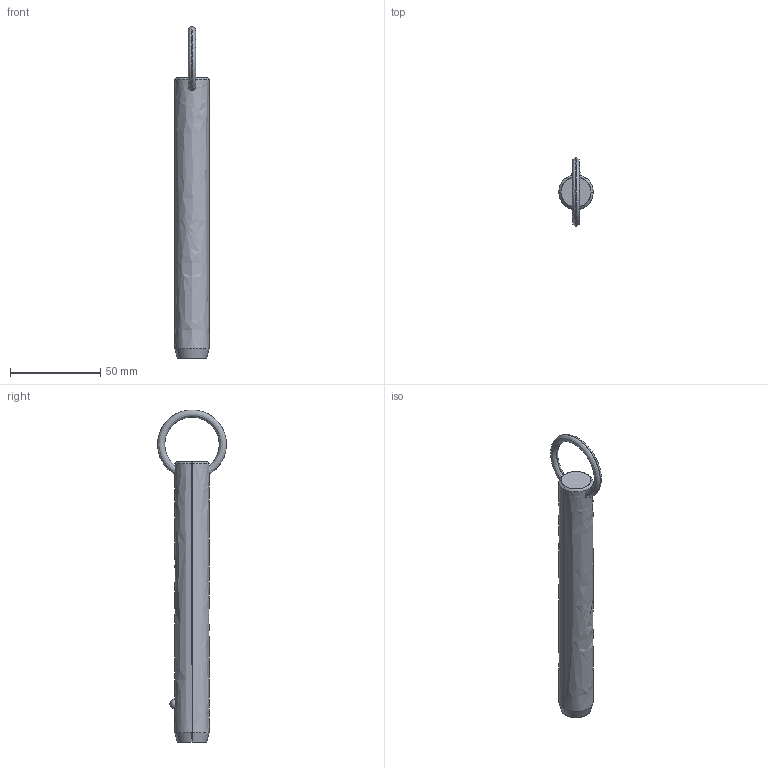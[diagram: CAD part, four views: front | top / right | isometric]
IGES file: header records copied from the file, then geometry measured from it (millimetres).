
Start section: SolidWorks IGES file using analytic representation for surfaces
Global section: file name: C:\Users\liam_\OneDrive\Documents\WORK\Work for WixRoyd\Job Files\J-00019 - Matt Davis CAD Checking\04. CAD Drawings\automotion20190605\P1250.2_v2\P1250.2_v2_20190729_IGES\P1250.075-480.igs; native system: SolidWorks 2017; preprocessor: SolidWorks 2017; author: liam_; date: 190729.235554; units: millimetre
Bounding box: 19 x 38.07 x 183.7 mm (x, y, z)
Surface area: 10790.8 mm2 (no closed solid volume)
Topology: 0 solids, 0 shells, 12 faces, 294 edges, 292 vertices
Faces by surface type: revolution 8, bspline 4
